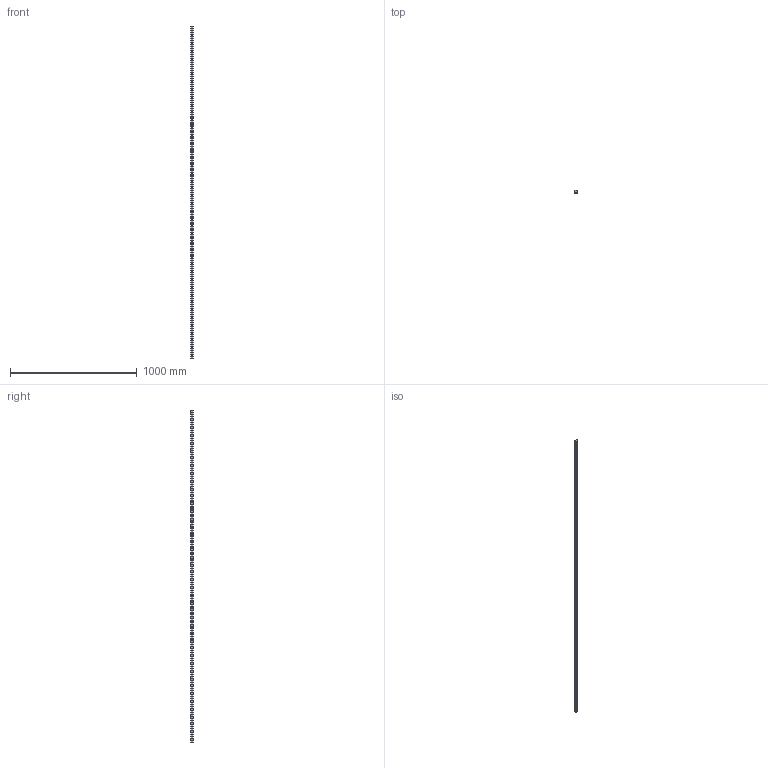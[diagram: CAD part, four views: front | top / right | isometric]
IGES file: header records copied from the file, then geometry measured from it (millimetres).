
Start section: SolidWorks IGES file using analytic representation for surfaces
Global section: file name: C:\Users\IanO\Desktop\L1016_v2\L1016.BL25_v2\L1016.BL25_v2_20160611_IGES\L1016.BL25-2620.igs; native system: SolidWorks 2017; preprocessor: SolidWorks 2017; author: IanO; date: 190612.131207; units: millimetre
Bounding box: 23 x 19.2 x 2620 mm (x, y, z)
Surface area: 248000.2 mm2 (no closed solid volume)
Topology: 0 solids, 0 shells, 246 faces, 6504 edges, 6504 vertices
Faces by surface type: revolution 180, bspline 66
